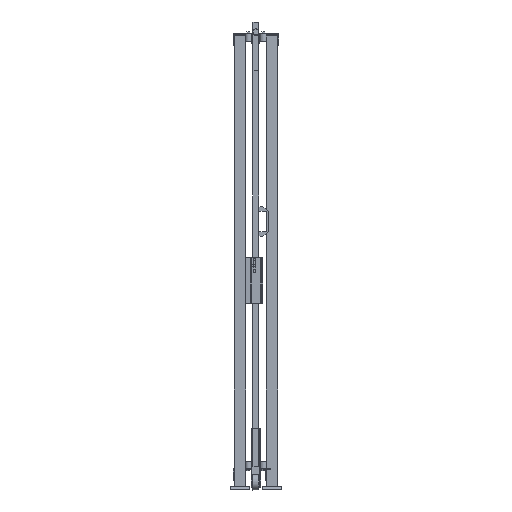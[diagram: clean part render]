
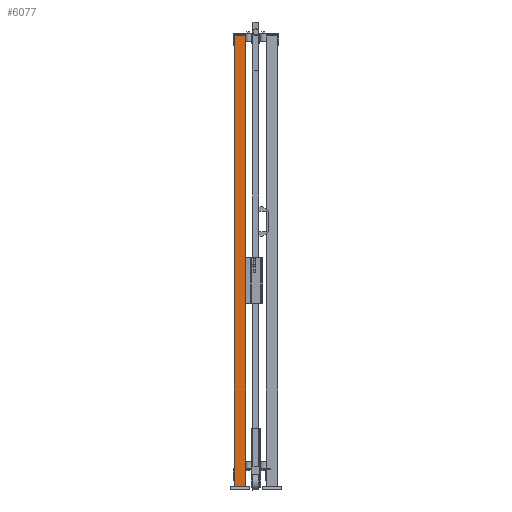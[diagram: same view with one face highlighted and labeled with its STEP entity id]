
A CAD part, left-side view. The second image highlights one B-rep face of the part: STEP entity #6077.
In plain terms, the highlighted planar face has unit normal (-1, 0, 0) as drawn and (0, 1, 0) by its records, which use the part's own axes.
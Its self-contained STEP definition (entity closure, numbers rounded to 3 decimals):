
#594=FACE_OUTER_BOUND('',#1061,.T.);
#1061=EDGE_LOOP('',(#3848,#3849,#3850,#3851));
#1589=VERTEX_POINT('',#13856);
#1590=VERTEX_POINT('',#13858);
#1592=VERTEX_POINT('',#13864);
#1595=VERTEX_POINT('',#13869);
#2463=EDGE_CURVE('',#1589,#1590,#7490,.T.);
#2469=EDGE_CURVE('',#1595,#1592,#7496,.T.);
#2472=EDGE_CURVE('',#1590,#1595,#7499,.T.);
#2473=EDGE_CURVE('',#1589,#1592,#7500,.T.);
#3848=ORIENTED_EDGE('',*,*,#2473,.T.);
#3849=ORIENTED_EDGE('',*,*,#2469,.F.);
#3850=ORIENTED_EDGE('',*,*,#2472,.F.);
#3851=ORIENTED_EDGE('',*,*,#2463,.F.);
#5654=PLANE('',#9610);
#6077=ADVANCED_FACE('',(#594),#5654,.F.);
#7490=LINE('',#13859,#8699);
#7496=LINE('',#13871,#8705);
#7499=LINE('',#13876,#8708);
#7500=LINE('',#13878,#8709);
#8699=VECTOR('',#10815,1.);
#8705=VECTOR('',#10823,1.);
#8708=VECTOR('',#10830,1.);
#8709=VECTOR('',#10833,1.);
#9610=AXIS2_PLACEMENT_3D('',#13877,#10831,#10832);
#10815=DIRECTION('',(-1.,0.,0.));
#10823=DIRECTION('',(1.,0.,0.));
#10830=DIRECTION('',(0.,0.,-1.));
#10831=DIRECTION('center_axis',(0.,-1.,0.));
#10832=DIRECTION('ref_axis',(0.,0.,-1.));
#10833=DIRECTION('',(0.,0.,-1.));
#13856=CARTESIAN_POINT('',(30.,30.,2320.));
#13858=CARTESIAN_POINT('',(-30.,30.,2320.));
#13859=CARTESIAN_POINT('',(0.,30.,2320.));
#13864=CARTESIAN_POINT('',(30.,30.,20.));
#13869=CARTESIAN_POINT('',(-30.,30.,20.));
#13871=CARTESIAN_POINT('',(0.,30.,20.));
#13876=CARTESIAN_POINT('',(-30.,30.,1170.));
#13877=CARTESIAN_POINT('Origin',(0.,30.,
1170.));
#13878=CARTESIAN_POINT('',(30.,30.,1170.));
